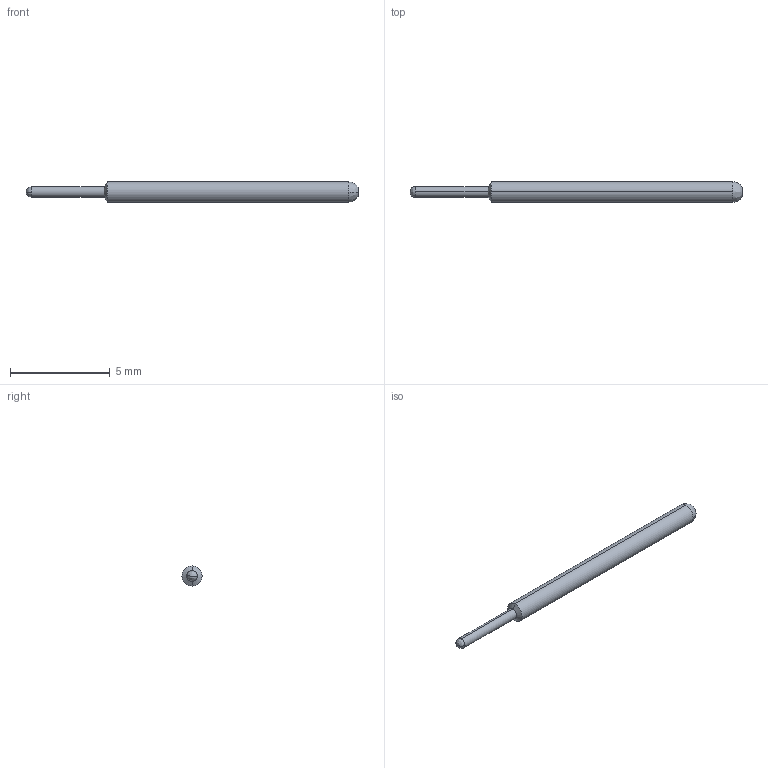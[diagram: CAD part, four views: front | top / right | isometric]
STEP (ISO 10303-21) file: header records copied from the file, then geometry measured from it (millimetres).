
FILE_DESCRIPTION (( 'STEP AP214' ), '1' );
FILE_NAME ('PA2J.STEP', '2021-08-25T11:41:52', ( '' ), ( '' ), 'SwSTEP 2.0', 'SolidWorks 2021', '' );
FILE_SCHEMA (( 'AUTOMOTIVE_DESIGN' ));
Length unit declared in the file: inch
Products named in the file (1): PA2J
Bounding box: 16.64 x 1.02 x 1.02 mm (x, y, z)
Volume: 11 mm3; surface area: 47.6 mm2
Topology: 1 solids, 1 shells, 11 faces, 26 edges, 15 vertices
Faces by surface type: bspline 4, cylinder 4, cone 2, plane 1
Entity records: 396 total; most frequent: CARTESIAN_POINT 111, DIRECTION 58, ORIENTED_EDGE 48, AXIS2_PLACEMENT_3D 26, EDGE_CURVE 24, CIRCLE 18, VERTEX_POINT 15, EDGE_LOOP 11
